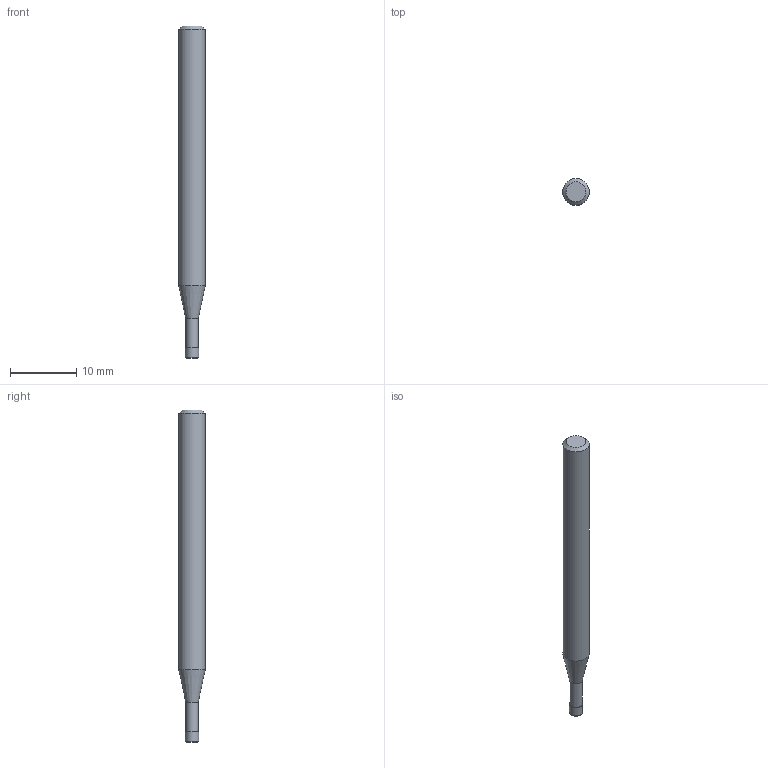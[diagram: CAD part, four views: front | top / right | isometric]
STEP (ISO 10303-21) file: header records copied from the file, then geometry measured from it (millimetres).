
FILE_DESCRIPTION((''),'2;1');
FILE_NAME('C:\Users\nsx150\AppData\Local\Temp\Mastercam 2021\17T8Q8S9EB\TEMP.step','2021-04-21T14:36:38',(''),(''),'STEP Write','Mastercam 2021 ... CNC Software, Inc.','');
FILE_SCHEMA(('AUTOMOTIVE_DESIGN'));
Length unit declared in the file: millimetre
Products named in the file (1): None
Bounding box: 4 x 4 x 50 mm (x, y, z)
Volume: 542.4 mm3; surface area: 591.7 mm2
Topology: 2 solids, 2 shells, 10 faces, 14 edges, 8 vertices
Faces by surface type: plane 4, cylinder 3, cone 2, torus 1
Full cylindrical faces by diameter (mm): 1.91 x1, 2 x1, 4 x1
Entity records: 232 total; most frequent: DIRECTION 40, CARTESIAN_POINT 28, AXIS2_PLACEMENT_3D 20, ORIENTED_EDGE 16, EDGE_LOOP 16, STYLED_ITEM 13, ADVANCED_FACE 10, FACE_BOUND 10
